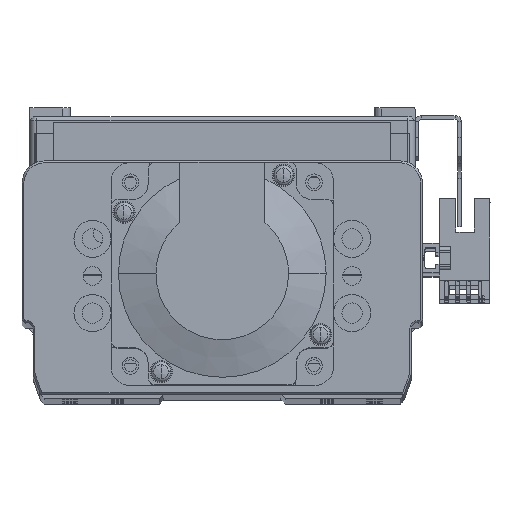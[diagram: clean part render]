
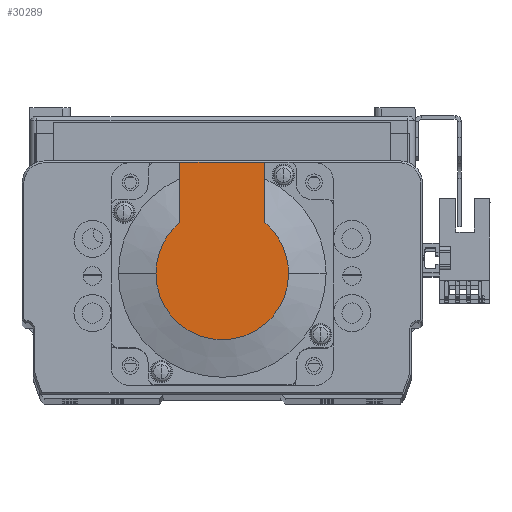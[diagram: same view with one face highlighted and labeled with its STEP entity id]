
A CAD part, top view. The second image highlights one B-rep face of the part: STEP entity #30289.
In plain terms, the highlighted planar face has unit normal (0, 0, 1) as drawn and (-1, 0, 0) by its records, which use the part's own axes.
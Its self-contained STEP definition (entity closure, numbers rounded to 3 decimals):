
#53 = DIRECTION ( 'NONE',  ( 0., -1., 0. ) ) ;
#59 = CARTESIAN_POINT ( 'NONE',  ( -99., 30., 25. ) ) ;
#73 = CARTESIAN_POINT ( 'NONE',  ( -99., 0., 11.45 ) ) ;
#80 = DIRECTION ( 'NONE',  ( 0., 0., 1. ) ) ;
#190 = CARTESIAN_POINT ( 'NONE',  ( -99., -8.941, -11.45 ) ) ;
#205 = DIRECTION ( 'NONE',  ( 0., -1., 0. ) ) ;
#346 = EDGE_CURVE ( 'NONE', #52074, #48460, #38697, .T. ) ;
#348 = EDGE_CURVE ( 'NONE', #51956, #52074, #38652, .T. ) ;
#391 = EDGE_CURVE ( 'NONE', #51956, #52022, #38772, .T. ) ;
#4607 = CIRCLE ( 'NONE', #37846, 17.881 ) ;
#5817 = EDGE_CURVE ( 'NONE', #52022, #48424, #4607, .T. ) ;
#13589 = DIRECTION ( 'NONE',  ( -1., 0., 0. ) ) ;
#13590 = DIRECTION ( 'NONE',  ( 0., 0., -1. ) ) ;
#13595 = CARTESIAN_POINT ( 'NONE',  ( -99., 0., 0. ) ) ;
#14003 = DIRECTION ( 'NONE',  ( -1., 0., 0. ) ) ;
#14008 = CARTESIAN_POINT ( 'NONE',  ( -99., 0., 0. ) ) ;
#14022 = DIRECTION ( 'NONE',  ( 0., 0., -1. ) ) ;
#15095 = CARTESIAN_POINT ( 'NONE',  ( -99., 0., -17.881 ) ) ;
#15205 = CARTESIAN_POINT ( 'NONE',  ( -99., 13.735, 11.45 ) ) ;
#15233 = CARTESIAN_POINT ( 'NONE',  ( -99., 0., 17.881 ) ) ;
#16738 = CARTESIAN_POINT ( 'NONE',  ( -99., 30., -11.45 ) ) ;
#16754 = CARTESIAN_POINT ( 'NONE',  ( -99., 13.735, -11.45 ) ) ;
#16817 = CARTESIAN_POINT ( 'NONE',  ( -99., 30., 11.45 ) ) ;
#22072 = CIRCLE ( 'NONE', #24623, 17.881 ) ;
#22287 = CIRCLE ( 'NONE', #24569, 17.881 ) ;
#24569 = AXIS2_PLACEMENT_3D ( 'NONE', #14008, #14003, #14022 ) ;
#24623 = AXIS2_PLACEMENT_3D ( 'NONE', #13595, #13589, #13590 ) ;
#29804 = FACE_OUTER_BOUND ( 'NONE', #47755, .T. ) ;
#30289 = ADVANCED_FACE ( 'NONE', ( #29804 ), #51029, .T. ) ;
#37846 = AXIS2_PLACEMENT_3D ( 'NONE', #44184, #44191, #44185 ) ;
#38647 = VECTOR ( 'NONE', #53, 1000. ) ;
#38652 = LINE ( 'NONE', #59, #38654 ) ;
#38654 = VECTOR ( 'NONE', #80, 1000. ) ;
#38697 = LINE ( 'NONE', #73, #38647 ) ;
#38772 = LINE ( 'NONE', #190, #38810 ) ;
#38810 = VECTOR ( 'NONE', #205, 1000. ) ;
#40271 = AXIS2_PLACEMENT_3D ( 'NONE', #51033, #51027, #51021 ) ;
#44184 = CARTESIAN_POINT ( 'NONE',  ( -99., 0., 0. ) ) ;
#44185 = DIRECTION ( 'NONE',  ( 0., 0., -1. ) ) ;
#44191 = DIRECTION ( 'NONE',  ( -1., 0., 0. ) ) ;
#44986 = EDGE_CURVE ( 'NONE', #48452, #48460, #22072, .T. ) ;
#45105 = EDGE_CURVE ( 'NONE', #48424, #48452, #22287, .T. ) ;
#47755 = EDGE_LOOP ( 'NONE', ( #53162, #53004, #52974, #52976, #52984, #53044 ) ) ;
#48424 = VERTEX_POINT ( 'NONE', #15095 ) ;
#48452 = VERTEX_POINT ( 'NONE', #15233 ) ;
#48460 = VERTEX_POINT ( 'NONE', #15205 ) ;
#51021 = DIRECTION ( 'NONE',  ( 0., 0., 1. ) ) ;
#51027 = DIRECTION ( 'NONE',  ( -1., 0., 0. ) ) ;
#51029 = PLANE ( 'NONE',  #40271 ) ;
#51033 = CARTESIAN_POINT ( 'NONE',  ( -99., -8.941, 0. ) ) ;
#51956 = VERTEX_POINT ( 'NONE', #16738 ) ;
#52022 = VERTEX_POINT ( 'NONE', #16754 ) ;
#52074 = VERTEX_POINT ( 'NONE', #16817 ) ;
#52974 = ORIENTED_EDGE ( 'NONE', *, *, #45105, .T. ) ;
#52976 = ORIENTED_EDGE ( 'NONE', *, *, #44986, .T. ) ;
#52984 = ORIENTED_EDGE ( 'NONE', *, *, #346, .F. ) ;
#53004 = ORIENTED_EDGE ( 'NONE', *, *, #5817, .T. ) ;
#53044 = ORIENTED_EDGE ( 'NONE', *, *, #348, .F. ) ;
#53162 = ORIENTED_EDGE ( 'NONE', *, *, #391, .T. ) ;
